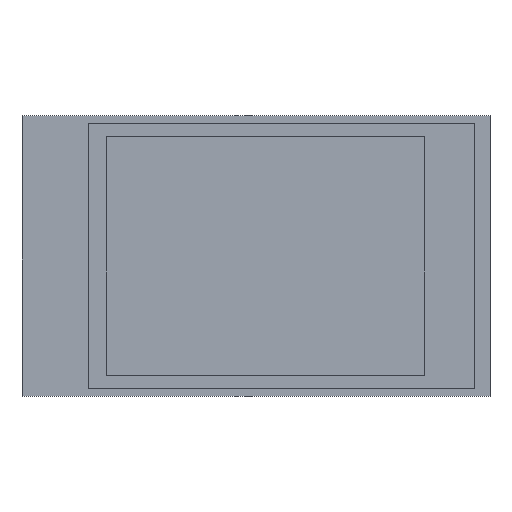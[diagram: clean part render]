
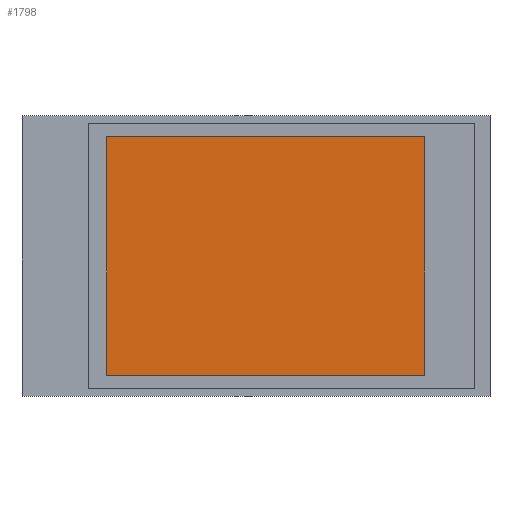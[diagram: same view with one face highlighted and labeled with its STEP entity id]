
A CAD part, top view. The second image highlights one B-rep face of the part: STEP entity #1798.
In plain terms, the highlighted planar face has unit normal (0, 0, 1).
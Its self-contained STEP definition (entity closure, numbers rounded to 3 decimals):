
#1659=CARTESIAN_POINT('',(8.35,-29.3,15.14));
#1660=VERTEX_POINT('',#1659);
#1661=CARTESIAN_POINT('',(49.15,-29.3,15.14));
#1662=VERTEX_POINT('',#1661);
#1663=CARTESIAN_POINT('',(8.35,1.3,15.14));
#1664=VERTEX_POINT('',#1663);
#1665=CARTESIAN_POINT('',(49.15,1.3,15.14));
#1666=VERTEX_POINT('',#1665);
#1667=DIRECTION('',(0.,1.,0.));
#1668=VECTOR('',#1667,30.6);
#1669=CARTESIAN_POINT('',(8.35,-29.3,15.14));
#1670=LINE('',#1669,#1668);
#1671=EDGE_CURVE('',#1660,#1664,#1670,.T.);
#1711=DIRECTION('',(0.,1.,0.));
#1712=VECTOR('',#1711,30.6);
#1713=CARTESIAN_POINT('',(49.15,-29.3,15.14));
#1714=LINE('',#1713,#1712);
#1715=EDGE_CURVE('',#1662,#1666,#1714,.T.);
#1732=DIRECTION('',(1.,0.,0.));
#1733=VECTOR('',#1732,40.8);
#1734=CARTESIAN_POINT('',(8.35,-29.3,15.14));
#1735=LINE('',#1734,#1733);
#1736=EDGE_CURVE('',#1660,#1662,#1735,.T.);
#1754=DIRECTION('',(1.,0.,0.));
#1755=VECTOR('',#1754,40.8);
#1756=CARTESIAN_POINT('',(8.35,1.3,15.14));
#1757=LINE('',#1756,#1755);
#1758=EDGE_CURVE('',#1664,#1666,#1757,.T.);
#1787=ORIENTED_EDGE('',*,*,#1736,.T.);
#1788=ORIENTED_EDGE('',*,*,#1715,.T.);
#1789=ORIENTED_EDGE('',*,*,#1758,.F.);
#1790=ORIENTED_EDGE('',*,*,#1671,.F.);
#1791=EDGE_LOOP('',(#1787,#1788,#1789,#1790));
#1792=FACE_OUTER_BOUND('',#1791,.T.);
#1793=CARTESIAN_POINT('',(8.35,-29.3,15.14));
#1794=DIRECTION('',(0.,0.,1.));
#1795=DIRECTION('',(1.,0.,0.));
#1796=AXIS2_PLACEMENT_3D('',#1793,#1794,#1795);
#1797=PLANE('',#1796);
#1798=ADVANCED_FACE('',(#1792),#1797,.T.);
